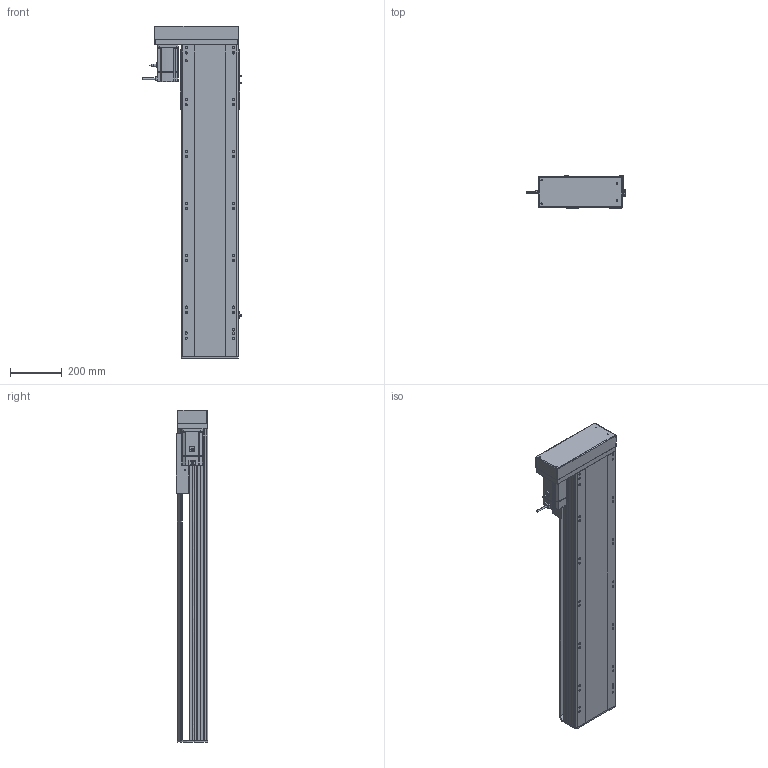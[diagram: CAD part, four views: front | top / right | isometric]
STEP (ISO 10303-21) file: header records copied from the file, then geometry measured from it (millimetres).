
FILE_DESCRIPTION (( 'STEP AP214' ), '1' );
FILE_NAME ('RTH22-XX-900-R-M75-C4.STEP', '2025-10-25T03:12:12', ( 'Microsoft' ), ( 'Microsoft' ), 'SwSTEP 2.0', 'SolidWorks 2018', '' );
FILE_SCHEMA (( 'AUTOMOTIVE_DESIGN' ));
Length unit declared in the file: millimetre
Products named in the file (10): N_RTH22-L-018裔赽^RTH22-XX-XX-R-M75-C4; N_RTH22-GY-013外置感应片^RTH22-XX-XX-R-M75-C4; N_RTH22-R-008-P75萇儂啣^RTH22-XX-XX-R-M75-C4; N_RTH22-GY-001耜裔^RTH22-XX-XX-R-M75-C4; N_RTH22-L-011菁釱^RTH22-XX-XX-R-M75-C4; N_750W萇儂^RTH22-XX-XX-R-M75-C4; N_RTH22-L-007奻裔^RTH22-XX-XX-R-M75-C4; RTH22-XX-900-R-M75-C4; N_OMRON EE-SX672 传感器^RTH22-XX-XX-R-M75-C4; N_RTH22-L-004-SFS25賑釱^RTH22-XX-XX-R-M75-C4
Assembly tree (11 placements, depth 2):
  RTH22-XX-900-R-M75-C4
    N_RTH22-L-011菁釱^RTH22-XX-XX-R-M75-C4
    N_RTH22-GY-001耜裔^RTH22-XX-XX-R-M75-C4
    N_750W萇儂^RTH22-XX-XX-R-M75-C4
    N_RTH22-R-008-P75萇儂啣^RTH22-XX-XX-R-M75-C4
    N_RTH22-L-007奻裔^RTH22-XX-XX-R-M75-C4
    N_OMRON EE-SX672 传感器^RTH22-XX-XX-R-M75-C4  x3
    N_RTH22-GY-013外置感应片^RTH22-XX-XX-R-M75-C4
    N_RTH22-L-004-SFS25賑釱^RTH22-XX-XX-R-M75-C4
    N_RTH22-L-018裔赽^RTH22-XX-XX-R-M75-C4
Bounding box: 384.7 x 122 x 1279.7 mm (x, y, z)
Volume: 17755100.7 mm3; surface area: 1999998.3 mm2
Topology: 11 solids, 11 shells, 1592 faces, 4347 edges, 2803 vertices
Faces by surface type: plane 793, cylinder 462, bspline 279, cone 58
Entity records: 39967 total; most frequent: CARTESIAN_POINT 12202, ORIENTED_EDGE 5670, DIRECTION 5341, EDGE_CURVE 2835, VERTEX_POINT 1839, AXIS2_PLACEMENT_3D 1794, VECTOR 1753, LINE 1753
